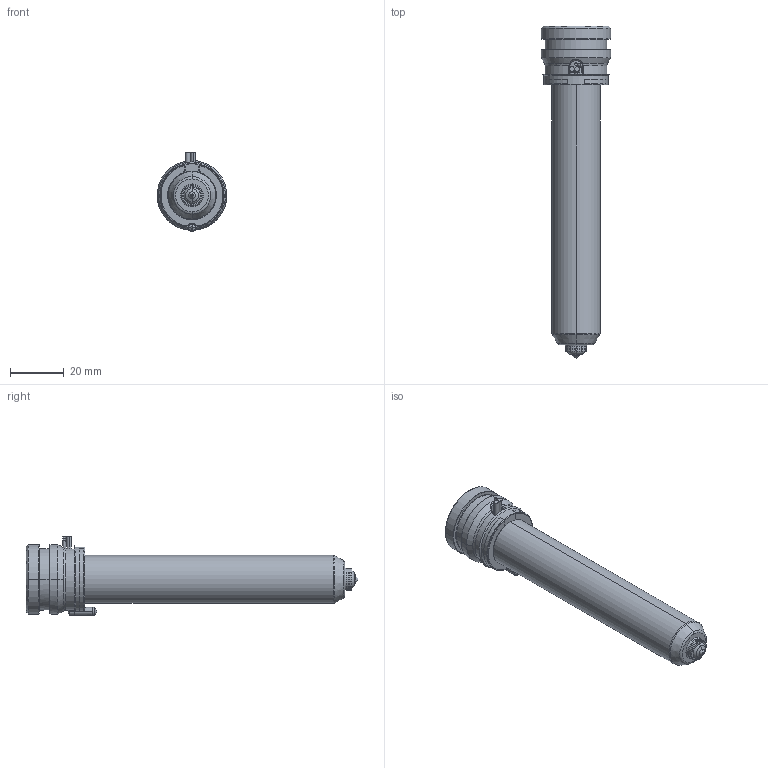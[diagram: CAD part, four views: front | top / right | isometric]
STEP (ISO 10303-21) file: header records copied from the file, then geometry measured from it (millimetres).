
FILE_DESCRIPTION((''),'2;1');
FILE_NAME('TH18106-A-1GLT-PK-JG','2023-12-14T',('umhib'),('Thermoplay S.p.A.'),'PRO/ENGINEER BY PARAMETRIC TECHNOLOGY CORPORATION, 2017170','PRO/ENGINEER BY PARAMETRIC TECHNOLOGY CORPORATION, 2017170','');
FILE_SCHEMA(('CONFIG_CONTROL_DESIGN'));
Length unit declared in the file: millimetre
Products named in the file (1): TH18106-A-1GLT-PK-JG
Bounding box: 26 x 124 x 29.5 mm (x, y, z)
Volume: 25902.9 mm3; surface area: 19071.2 mm2
Topology: 1 solids, 2 shells, 418 faces, 1085 edges, 675 vertices
Faces by surface type: cylinder 162, plane 90, cone 68, torus 62, bspline 24, sphere 10, extrusion 2
Entity records: 18144 total; most frequent: CARTESIAN_POINT 5864, DIRECTION 2187, ORIENTED_EDGE 2146, EDGE_CURVE 1075, AXIS2_PLACEMENT_3D 886, VERTEX_POINT 675, CIRCLE 493, EDGE_LOOP 443
